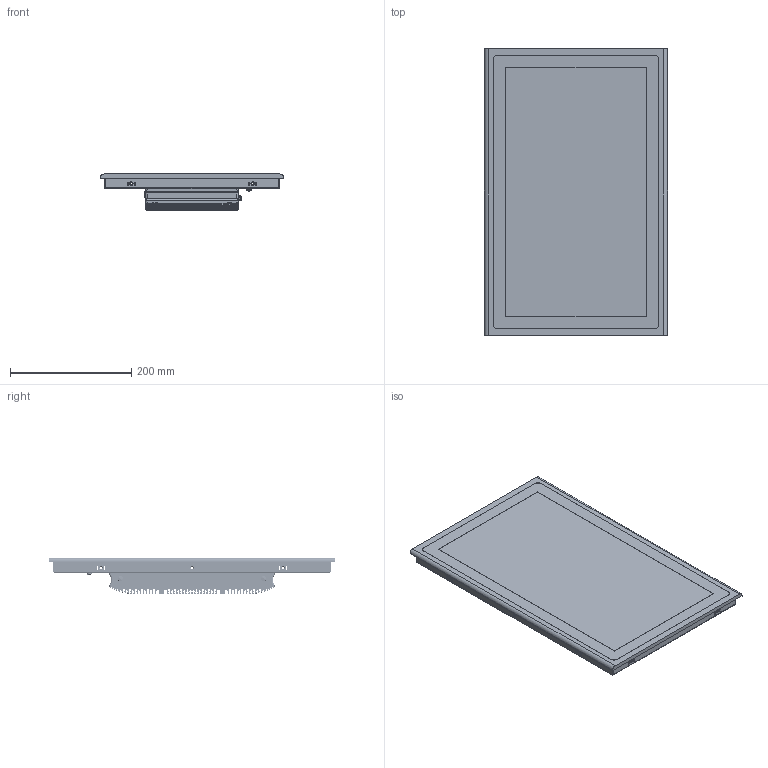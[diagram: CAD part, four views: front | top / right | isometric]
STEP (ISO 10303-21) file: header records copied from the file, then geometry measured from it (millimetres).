
FILE_DESCRIPTION((''),'2;1');
FILE_NAME('FPM-1805-20250228','2025-08-02T23:04:38',('anthony'),(''),'CREO PARAMETRIC BY PTC INC, 2024063','CREO PARAMETRIC BY PTC INC, 2024063','');
FILE_SCHEMA(('CONFIG_CONTROL_DESIGN','SHAPE_APPEARANCE_LAYERS_GROUPS'));
Products named in the file (1): FPM-1805-20250228
Bounding box: 301.5 x 472 x 59.68 mm (x, y, z)
Volume: 1207946 mm3; surface area: 970687.8 mm2
Topology: 25 solids, 46 shells, 6660 faces, 21052 edges, 14559 vertices
Faces by surface type: plane 3700, cylinder 2600, cone 192, torus 88, bspline 62, sphere 14, revolution 4
Entity records: 291509 total; most frequent: CARTESIAN_POINT 55118, ORIENTED_EDGE 41806, DIRECTION 38449, EDGE_CURVE 21008, VERTEX_POINT 14560, PRESENTATION_STYLE_ASSIGNMENT 13881, STYLED_ITEM 13520, AXIS2_PLACEMENT_3D 13134
